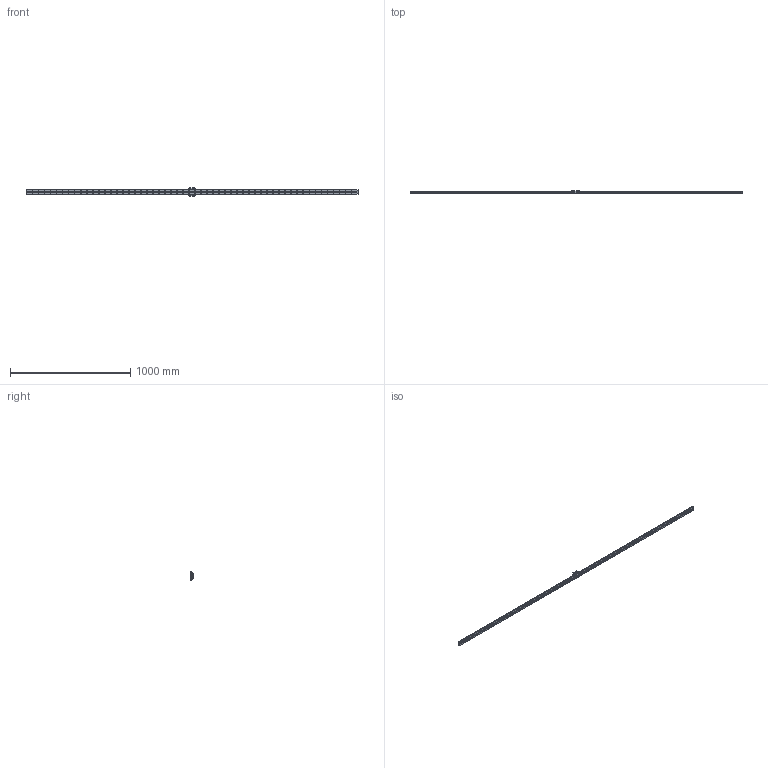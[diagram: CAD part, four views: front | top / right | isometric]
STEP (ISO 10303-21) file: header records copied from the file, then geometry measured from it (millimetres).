
FILE_DESCRIPTION(/* description */ ('STEP AP214'),/* implementation_level */ '2;1');
FILE_NAME(/* name */ 'HRW21CA1M-2760LTM_G5_0_B-M6F_1351-4_0_0_0_1',/* time_stamp */ '2023-09-26T15:08:59+02:00',/* author */ ('License CC BY-ND 4.0'),/* organization */ ('CADENAS'),/* preprocessor_version */ 'ST-DEVELOPER v19.3',/* originating_system */ 'PARTsolutions',/* authorisation */ ' ');
FILE_SCHEMA (('AUTOMOTIVE_DESIGN {1 0 10303 214 3 1 1}'));
Length unit declared in the file: millimetre
Products named in the file (4): HRW21CA1M-2760LTM_G5_0_B-M6F_1351-4_0_0_0_1; HRW-B-M6F_grease_nipple_joint; HRW21CAB-M6F1 Slide17-60; HRW21CA27605 Track
Assembly tree (3 placements, depth 2):
  HRW21CA1M-2760LTM_G5_0_B-M6F_1351-4_0_0_0_1
    HRW-B-M6F_grease_nipple_joint
    HRW21CAB-M6F1 Slide17-60
    HRW21CA27605 Track
Bounding box: 2760 x 21.12 x 68 mm (x, y, z)
Volume: 1037657 mm3; surface area: 307666.8 mm2
Topology: 3 solids, 3 shells, 560 faces, 1270 edges, 837 vertices
Faces by surface type: plane 264, cylinder 262, cone 25, torus 6, sphere 3
Full cylindrical faces by diameter (mm): 3 x4, 4.134 x2, 4.4 x4, 4.5 x112, 4.917 x2, 6 x1, 7.5 x114, 8 x1
Entity records: 15103 total; most frequent: DIRECTION 2642, CARTESIAN_POINT 2549, ORIENTED_EDGE 1984, FACE_BOUND 1187, EDGE_LOOP 1185, AXIS2_PLACEMENT_3D 1122, EDGE_CURVE 992, VERTEX_POINT 829
